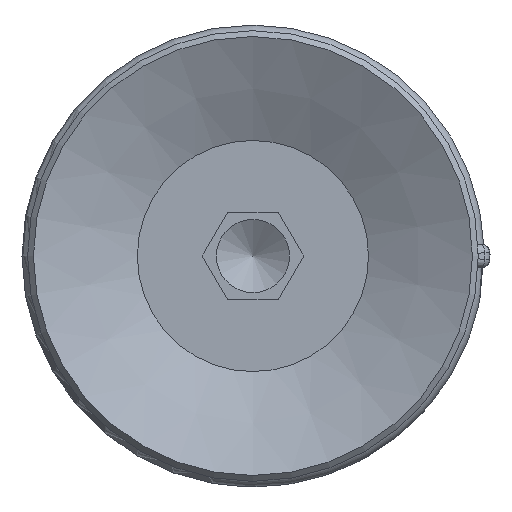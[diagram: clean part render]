
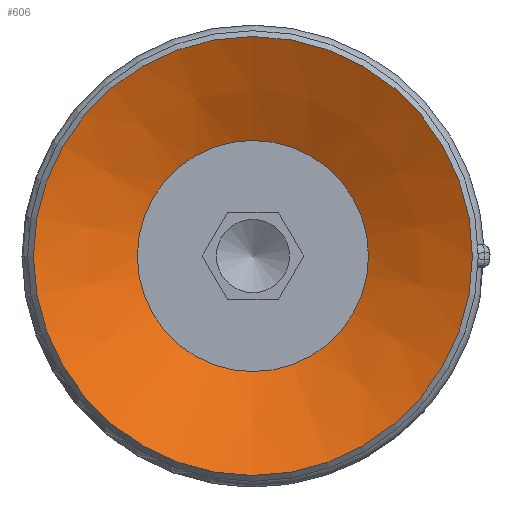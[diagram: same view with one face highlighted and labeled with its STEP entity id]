
A CAD part, front view. The second image highlights one B-rep face of the part: STEP entity #606.
In plain terms, the highlighted conical face has half-angle 64 degrees and reference radius 3.95 mm.
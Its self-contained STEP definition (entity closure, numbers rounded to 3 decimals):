
#606=ADVANCED_FACE('',(#905,#906),#907,.F.);
#905=FACE_BOUND('',#1360,.T.);
#906=FACE_OUTER_BOUND('',#1361,.T.);
#907=CONICAL_SURFACE('',#1362,3.95,1.117);
#1360=EDGE_LOOP('',(#2486));
#1361=EDGE_LOOP('',(#2487));
#1362=AXIS2_PLACEMENT_3D('',#2488,#2489,#2490);
#2486=ORIENTED_EDGE('',*,*,#3161,.F.);
#2487=ORIENTED_EDGE('',*,*,#3162,.T.);
#2488=CARTESIAN_POINT('',(0.0,-29.404,-47.168));
#2489=DIRECTION('',(-0.0,0.,1.0));
#2490=DIRECTION('',(0.0,-1.0,0.));
#3161=EDGE_CURVE('',#3606,#3606,#3607,.T.);
#3162=EDGE_CURVE('',#3608,#3608,#3609,.T.);
#3606=VERTEX_POINT('',#4724);
#3607=CIRCLE('',#4725,3.95);
#3608=VERTEX_POINT('',#4726);
#3609=CIRCLE('',#4727,7.5);
#4724=CARTESIAN_POINT('',(0.0,-33.354,-47.168));
#4725=AXIS2_PLACEMENT_3D('',#5541,#5542,#5543);
#4726=CARTESIAN_POINT('',(0.0,-36.904,-45.437));
#4727=AXIS2_PLACEMENT_3D('',#5544,#5545,#5546);
#5541=CARTESIAN_POINT('',(0.0,-29.404,-47.168));
#5542=DIRECTION('',(0.0,0.,1.0));
#5543=DIRECTION('',(0.0,-1.0,0.));
#5544=CARTESIAN_POINT('',(0.0,-29.404,-45.437));
#5545=DIRECTION('',(0.0,0.,1.0));
#5546=DIRECTION('',(0.0,-1.0,0.));
